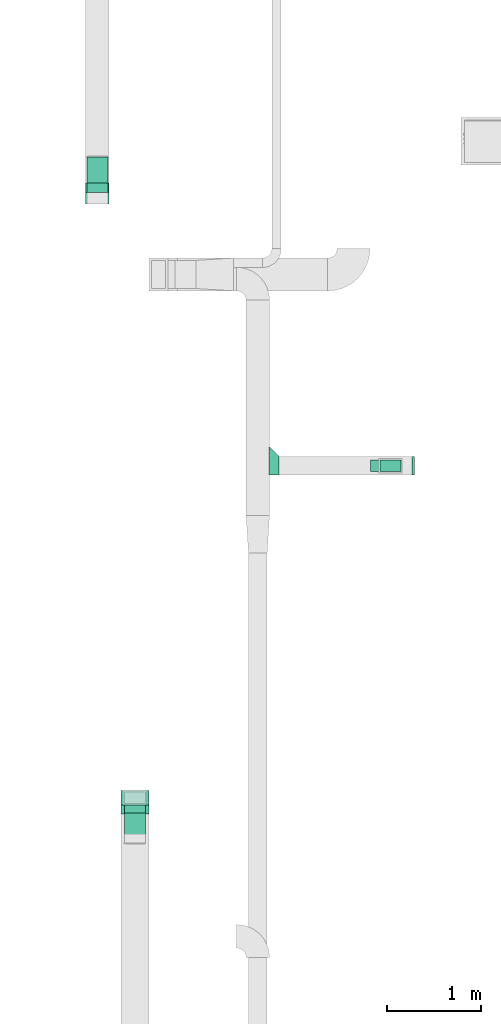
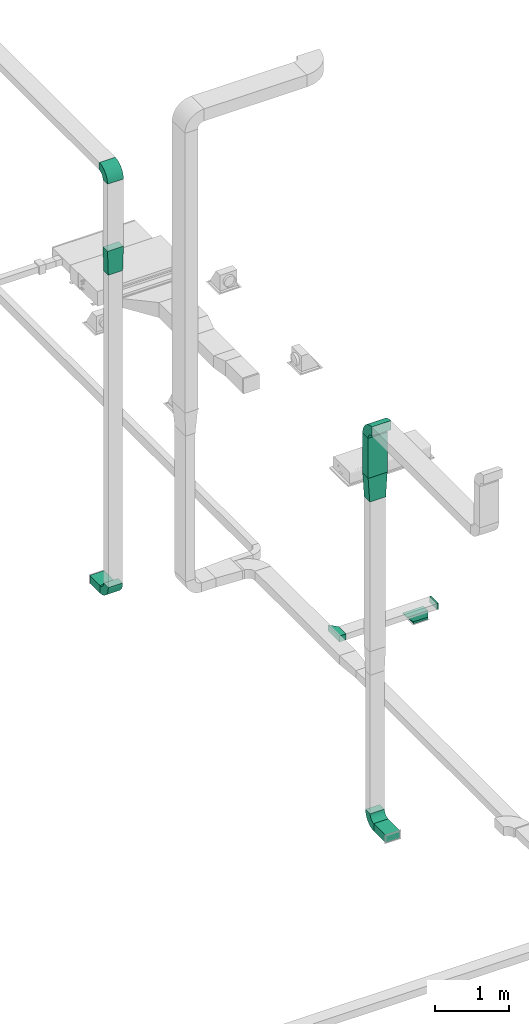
# One storey, part 6 of 22: 9 flow fittings, 4 flow segments.
"""IFC2X3 building model written with IfcOpenShell, lengths in millimetres."""

from ifc_helpers import new_model, entity, si_unit, converted_unit, derived_unit, direction, frame, frame_2d, origin, origin_2d_with_axis, place, context, subcontext, project, spatial, polyline, circle_curve, parameter, trimmed, segment, composite_curve, rectangle, outline, extrude, source, transform, mapped, material, type_object, type_shapes, element, save


model = new_model("IFC2X3")

# Units and contexts
model_context = context("Model", 3, precision=0.01, world=origin(), true_north=direction((6.123233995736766e-17, 1.0)))
body_context = subcontext(model_context, "Body", "Model", "MODEL_VIEW")
ifc_project = project(units=[si_unit("LENGTHUNIT", "METRE", prefix="MILLI"), converted_unit("PLANEANGLEUNIT", "DEGREE", entity("IfcPlaneAngleMeasure", 0.017453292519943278), si_unit("PLANEANGLEUNIT", "RADIAN"), dimensions=[0, 0, 0, 0, 0, 0, 0]), si_unit("AREAUNIT", "SQUARE_METRE"), derived_unit("THERMALTRANSMITTANCEUNIT", [(si_unit("MASSUNIT", "GRAM", prefix="KILO"), 1), (si_unit("THERMODYNAMICTEMPERATUREUNIT", "KELVIN"), -1), (si_unit("TIMEUNIT", "SECOND"), -3)])], contexts=[model_context])

# Site, building, storey
site_placement = place(None, origin())
site = spatial("IfcSite", under=ifc_project, at=site_placement, Name="Default", CompositionType="ELEMENT")
building_placement = place(site_placement, origin())
building = spatial("IfcBuilding", under=site, at=building_placement, Name="Praça Pedro II, 1301 - Centro (Sul), Teresina - PI, 64001-100", CompositionType="ELEMENT")
storey_placement = place(building_placement, frame((0.0, 0.0, 320.0)))
storey = spatial("IfcBuildingStorey", under=building, at=storey_placement, Name="TÉRREO +0.32m", CompositionType="ELEMENT", Elevation=319.99999999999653)

# Flow segments
duct_segment_type = type_object("IfcDuctSegmentType", Name="Duto retangular:Raios cotovelos / torneiras", PredefinedType="NOTDEFINED")
flow_segment_1_placement = place(storey_placement, origin())
element("IfcFlowSegment", 1, at=flow_segment_1_placement, inside=storey, type_object=duct_segment_type, Name="Duto retangular:Raios cotovelos / torneiras", ObjectType="Duto retangular:Raios cotovelos / torneiras", context=body_context, shape_type="SweptSolid", body=[
    extrude(rectangle(XDim=277.50000000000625, YDim=225.00000000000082, at=frame_2d((4.334310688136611e-12, 2.1600499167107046e-12), x_axis=(1.0, 0.0))), frame((33786.88553093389, -57872.09224349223, 1778.5000001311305), z_axis=(0.0, 0.0, 1.0), x_axis=(0.0, -1.0, 0.0)), (0.0, 0.0, 1.0), 124.99999999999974),
])
flow_segment_2_placement = place(storey_placement, origin())
element("IfcFlowSegment", 2, at=flow_segment_2_placement, inside=storey, type_object=duct_segment_type, Name="Duto retangular:Raios cotovelos / torneiras", ObjectType="Duto retangular:Raios cotovelos / torneiras", context=body_context, shape_type="SweptSolid", body=[
    extrude(rectangle(XDim=318.7258346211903, YDim=225.00000000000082, at=frame_2d((0.0, 2.1600499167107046e-12), x_axis=(1.0, 0.0))), frame((34186.88553093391, -64889.97932506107, 1778.5000001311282), z_axis=(0.0, 0.0, 1.0), x_axis=(0.0, 1.0, 0.0)), (0.0, 0.0, 1.0), 124.99999999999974),
])
flow_segment_3_placement = place(storey_placement, origin())
element("IfcFlowSegment", 3, at=flow_segment_3_placement, inside=storey, type_object=duct_segment_type, Name="Duto retangular:Raios cotovelos / torneiras", ObjectType="Duto retangular:Raios cotovelos / torneiras", context=body_context, shape_type="SweptSolid", body=[
    extrude(rectangle(XDim=150.00000000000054, YDim=300.0000000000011, at=origin_2d_with_axis()), frame((34186.88553093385, -64568.1164077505, 7566.425281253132), z_axis=(0.0, 0.0, 1.0), x_axis=(0.0, 1.0, 0.0)), (0.0, 0.0, 1.0), 662.5180156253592),
])
flow_segment_4_placement = place(storey_placement, origin())
element("IfcFlowSegment", 4, at=flow_segment_4_placement, inside=storey, type_object=duct_segment_type, Name="Duto retangular:Raios cotovelos / torneiras", ObjectType="Duto retangular:Raios cotovelos / torneiras", context=body_context, shape_type="SweptSolid", body=[
    extrude(rectangle(XDim=125.00000000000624, YDim=225.00000000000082, at=origin_2d_with_axis()), frame((36911.48958320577, -61024.97495062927, 2040.0), z_axis=(0.0, 0.0, 1.0), x_axis=(0.0, 1.0, 0.0)), (0.0, 0.0, 1.0), 35.00000000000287),
])

# Flow fittings
ifc_material = material(Name="<Unnamed>")
duct_fitting_type_1 = type_object("IfcDuctFittingType", Name="BTS vanes:1 Splitter Vanes", PredefinedType="NOTDEFINED", material=ifc_material)
shared_shape_1 = source(origin(), body_context, "Body", "SweptSolid", [
    extrude(outline(composite_curve([segment(polyline([(-143.75, -81.24999999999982), (-18.749999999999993, -81.24999999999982)]), True, "CONTINUOUS"), segment(trimmed(circle_curve(frame_2d((81.25000000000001, -81.24999999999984), x_axis=(0.0, 1.0)), 100.0), [parameter(0.0)], [parameter(90.00000000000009)], True, "PARAMETER"), False, "CONTINUOUS"), segment(polyline([(81.25000000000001, 18.750000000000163), (81.25000000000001, 143.75000000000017)]), True, "CONTINUOUS"), segment(trimmed(circle_curve(frame_2d((81.25000000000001, -81.24999999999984), x_axis=(0.0, 1.0)), 225.00000000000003), [parameter(0.0)], [parameter(90.00000000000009)], True, "PARAMETER"), True, "CONTINUOUS")], self_intersect=False)), frame((-81.2499999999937, 81.24999999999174, -112.50000000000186), z_axis=(0.0, 0.0, 1.0), x_axis=(-1.0, 0.0, 0.0)), (0.0, 0.0, 1.0), 225.00000000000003),
    extrude(outline(composite_curve([segment(polyline([(-77.63157894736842, -59.21052631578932), (-40.78947368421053, -59.21052631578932)]), True, "CONTINUOUS"), segment(trimmed(circle_curve(frame_2d((59.210526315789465, -59.21052631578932), x_axis=(0.0, 1.0)), 99.99999999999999), [parameter(0.0)], [parameter(90.00000000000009)], True, "PARAMETER"), False, "CONTINUOUS"), segment(polyline([(59.210526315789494, 40.78947368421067), (59.210526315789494, 77.63157894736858)]), True, "CONTINUOUS"), segment(trimmed(circle_curve(frame_2d((59.210526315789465, -59.21052631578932), x_axis=(0.0, 1.0)), 136.8421052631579), [parameter(0.0)], [parameter(90.00000000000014)], True, "PARAMETER"), True, "CONTINUOUS")], self_intersect=False)), frame((-103.28947368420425, 103.28947368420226, -112.50000000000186), z_axis=(0.0, 0.0, 1.0), x_axis=(-1.0, 0.0, 0.0)), (0.0, 0.0, 1.0), 225.00000000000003),
])
type_shapes(duct_fitting_type_1, [shared_shape_1])
for number, where, z_axis, x_axis, name in (
    (5, (34186.88553093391, -64568.11640775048, 1841.0000001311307), (1.0, 0.0, 0.0), (0.0, 1.0, 0.0), "BTS vanes:1 Splitter Vanes"),
    (6, (33786.885530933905, -58173.342243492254, 1841.0000001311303), (-1.0, 0.0, 0.0), (0.0, -1.0, 0.0), "BTS vanes:1 Splitter Vanes"),
):
    element("IfcFlowFitting", number, at=place(storey_placement, frame(where, z_axis=z_axis, x_axis=x_axis)), inside=storey, type_object=duct_fitting_type_1, material=ifc_material, Name=name, ObjectType="BTS vanes:1 Splitter Vanes", context=body_context, shape_type="MappedRepresentation", body=[
        mapped(shared_shape_1, transform((0.0, 0.0, 0.0), scale=1.0)),
    ])
duct_fitting_type_2 = type_object("IfcDuctFittingType", Name="M_Rectangular Transition - L:400 mm (L)", PredefinedType="NOTDEFINED", material=ifc_material)
shared_shape_2 = source(origin(), body_context, "Body", "SweptSolid", [
    extrude(outline(polyline([(-191.81322992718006, -137.23222954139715), (208.96725861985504, -137.2322295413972), (190.25377277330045, 162.1835440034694), (-207.4078014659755, 112.280915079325), (-191.81322992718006, -137.23222954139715)])), frame((200.0, 0.0, -75.0), z_axis=(0.0, 0.0, 1.0), x_axis=(0.9980525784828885, -0.06237828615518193, 0.0)), (0.0, 0.0, 1.0), 150.0),
])
type_shapes(duct_fitting_type_2, [shared_shape_2])
flow_fitting_1_placement = place(storey_placement, frame((34186.88553093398, -64568.116407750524, 7166.425281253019), z_axis=(0.0, 1.0, 0.0), x_axis=(0.0, 0.0, 1.0)))
element("IfcFlowFitting", 7, at=flow_fitting_1_placement, inside=storey, type_object=duct_fitting_type_2, material=ifc_material, Name="M_Rectangular Transition - L:400 mm (L)", ObjectType="M_Rectangular Transition - L:400 mm (L)", context=body_context, shape_type="MappedRepresentation", body=[
    mapped(shared_shape_2, transform((0.0, 0.0, 0.0), scale=1.0)),
])
duct_fitting_type_3 = type_object("IfcDuctFittingType", Name="M_Tampa retangular:Padrão", PredefinedType="NOTDEFINED", material=ifc_material)
shared_shape_3 = source(origin(), body_context, "Body", "SweptSolid", [
    extrude(rectangle(XDim=24.999999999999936, YDim=200.00000000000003, at=frame_2d((-8.881784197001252e-16, 0.0), x_axis=(1.0, 0.0))), frame((12.500000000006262, 0.0, -50.0)), (0.0, 0.0, 1.0), 100.0),
])
type_shapes(duct_fitting_type_3, [shared_shape_3])
flow_fitting_2_placement = place(storey_placement, frame((37142.88897367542, -61024.974950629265, 2225.0)))
element("IfcFlowFitting", 8, at=flow_fitting_2_placement, inside=storey, type_object=duct_fitting_type_3, material=ifc_material, Name="M_Tampa retangular:Padrão", ObjectType="M_Tampa retangular:Padrão", context=body_context, shape_type="MappedRepresentation", body=[
    mapped(shared_shape_3, transform((0.0, 0.0, 0.0), scale=1.0)),
])
duct_fitting_type_4 = type_object("IfcDuctFittingType", Name="M_Rectangular Transition - L:400 mm (L)", PredefinedType="NOTDEFINED", material=ifc_material)
shared_shape_4 = source(origin(), body_context, "Body", "SweptSolid", [
    extrude(outline(polyline([(-196.38850557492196, -118.69205903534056), (203.80675926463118, -118.69205903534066), (195.99807117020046, 131.18595998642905), (-203.41632485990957, 106.19815808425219), (-196.38850557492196, -118.69205903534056)])), frame((200.0, 0.0, -62.50000000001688), z_axis=(0.0, 0.0, 1.0), x_axis=(0.9995120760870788, -0.031234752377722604, 0.0)), (0.0, 0.0, 1.0), 125.00000000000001),
])
type_shapes(duct_fitting_type_4, [shared_shape_4])
flow_fitting_3_placement = place(storey_placement, frame((33786.88553093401, -58173.342243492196, 7165.7586575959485), z_axis=(0.0, 1.0, 0.0), x_axis=(0.0, 0.0, 1.0)))
element("IfcFlowFitting", 9, at=flow_fitting_3_placement, inside=storey, type_object=duct_fitting_type_4, material=ifc_material, Name="M_Rectangular Transition - L:400 mm (L)", ObjectType="M_Rectangular Transition - L:400 mm (L)", context=body_context, shape_type="MappedRepresentation", body=[
    mapped(shared_shape_4, transform((0.0, 0.0, 0.0), scale=1.0)),
])
duct_fitting_type_5 = type_object("IfcDuctFittingType", Name="BTS vanes:1 Splitter Vanes", PredefinedType="NOTDEFINED", material=ifc_material)
shared_shape_5 = source(origin(), body_context, "Body", "SweptSolid", [
    extrude(outline(composite_curve([segment(polyline([(-162.5, -87.49999999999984), (-12.499999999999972, -87.49999999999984)]), True, "CONTINUOUS"), segment(trimmed(circle_curve(frame_2d((87.50000000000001, -87.49999999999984), x_axis=(0.0, 1.0)), 99.99999999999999), [parameter(0.0)], [parameter(90.00000000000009)], True, "PARAMETER"), False, "CONTINUOUS"), segment(polyline([(87.50000000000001, 12.500000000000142), (87.50000000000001, 162.50000000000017)]), True, "CONTINUOUS"), segment(trimmed(circle_curve(frame_2d((87.50000000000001, -87.49999999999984), x_axis=(0.0, 1.0)), 250.00000000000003), [parameter(0.0)], [parameter(90.00000000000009)], True, "PARAMETER"), True, "CONTINUOUS")], self_intersect=False)), frame((-87.4999999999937, 87.49999999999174, -150.0), z_axis=(0.0, 0.0, 1.0), x_axis=(-1.0, 0.0, 0.0)), (0.0, 0.0, 1.0), 300.0),
    extrude(outline(composite_curve([segment(polyline([(-77.63157894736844, -59.21052631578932), (-40.789473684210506, -59.21052631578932)]), True, "CONTINUOUS"), segment(trimmed(circle_curve(frame_2d((59.210526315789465, -59.21052631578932), x_axis=(0.0, 1.0)), 99.99999999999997), [parameter(0.0)], [parameter(90.00000000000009)], True, "PARAMETER"), False, "CONTINUOUS"), segment(polyline([(59.210526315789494, 40.78947368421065), (59.210526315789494, 77.63157894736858)]), True, "CONTINUOUS"), segment(trimmed(circle_curve(frame_2d((59.210526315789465, -59.21052631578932), x_axis=(0.0, 1.0)), 136.8421052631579), [parameter(0.0)], [parameter(90.00000000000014)], True, "PARAMETER"), True, "CONTINUOUS")], self_intersect=False)), frame((-115.78947368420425, 115.78947368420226, -150.0), z_axis=(0.0, 0.0, 1.0), x_axis=(-1.0, 0.0, 0.0)), (0.0, 0.0, 1.0), 300.0),
])
type_shapes(duct_fitting_type_5, [shared_shape_5])
flow_fitting_4_placement = place(storey_placement, frame((34186.885530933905, -64568.11640775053, 8403.943296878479), z_axis=(1.0, 0.0, 0.0), x_axis=(0.0, 0.0, 1.0)))
element("IfcFlowFitting", 10, at=flow_fitting_4_placement, inside=storey, type_object=duct_fitting_type_5, material=ifc_material, Name="BTS vanes:1 Splitter Vanes", ObjectType="BTS vanes:1 Splitter Vanes", context=body_context, shape_type="MappedRepresentation", body=[
    mapped(shared_shape_5, transform((0.0, 0.0, 0.0), scale=1.0)),
])
duct_fitting_type_6 = type_object("IfcDuctFittingType", Name="M_Rectangular Tap - Beveled:Standard", PredefinedType="NOTDEFINED", material=ifc_material)
shared_shape_6 = source(origin(), body_context, "Body", "SweptSolid", [
    extrude(outline(polyline([(-62.43839999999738, -160.0), (43.65760000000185, -160.0), (43.6576000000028, 140.0), (37.5616000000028, 140.0), (-62.43839999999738, 40.0), (-62.43839999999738, -160.0)])), frame((37.56160000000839, -60.0, -50.0), z_axis=(0.0, 0.0, 1.0), x_axis=(-1.0, 0.0, 0.0)), (0.0, 0.0, 1.0), 99.99999999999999),
])
type_shapes(duct_fitting_type_6, [shared_shape_6])
flow_fitting_5_placement = place(storey_placement, frame((35622.88897367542, -61024.974950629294, 2225.0), z_axis=(0.0, 0.0, -1.0), x_axis=(1.0, 0.0, 0.0)))
element("IfcFlowFitting", 11, at=flow_fitting_5_placement, inside=storey, type_object=duct_fitting_type_6, material=ifc_material, Name="M_Rectangular Tap - Beveled:Standard", ObjectType="M_Rectangular Tap - Beveled:Standard", context=body_context, shape_type="MappedRepresentation", body=[
    mapped(shared_shape_6, transform((0.0, 0.0, 0.0), scale=1.0)),
])
duct_fitting_type_7 = type_object("IfcDuctFittingType", Name="BTS vanes:1 Splitter Vanes", PredefinedType="NOTDEFINED", material=ifc_material)
shared_shape_7 = source(origin(), body_context, "Body", "SweptSolid", [
    extrude(outline(composite_curve([segment(polyline([(-143.75, -81.24999999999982), (-18.749999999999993, -81.24999999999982)]), True, "CONTINUOUS"), segment(trimmed(circle_curve(frame_2d((81.25000000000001, -81.24999999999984), x_axis=(0.0, 1.0)), 100.0), [parameter(0.0)], [parameter(90.00000000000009)], True, "PARAMETER"), False, "CONTINUOUS"), segment(polyline([(81.25000000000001, 18.750000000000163), (81.25000000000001, 143.75000000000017)]), True, "CONTINUOUS"), segment(trimmed(circle_curve(frame_2d((81.25000000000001, -81.24999999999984), x_axis=(0.0, 1.0)), 225.00000000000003), [parameter(0.0)], [parameter(90.00000000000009)], True, "PARAMETER"), True, "CONTINUOUS")], self_intersect=False)), frame((-81.2499999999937, 81.24999999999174, -125.0), z_axis=(0.0, 0.0, 1.0), x_axis=(-1.0, 0.0, 0.0)), (0.0, 0.0, 1.0), 250.00000000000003),
    extrude(outline(composite_curve([segment(polyline([(-77.63157894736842, -59.21052631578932), (-40.78947368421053, -59.21052631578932)]), True, "CONTINUOUS"), segment(trimmed(circle_curve(frame_2d((59.210526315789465, -59.21052631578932), x_axis=(0.0, 1.0)), 99.99999999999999), [parameter(0.0)], [parameter(90.00000000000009)], True, "PARAMETER"), False, "CONTINUOUS"), segment(polyline([(59.210526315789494, 40.78947368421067), (59.210526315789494, 77.63157894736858)]), True, "CONTINUOUS"), segment(trimmed(circle_curve(frame_2d((59.210526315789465, -59.21052631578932), x_axis=(0.0, 1.0)), 136.8421052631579), [parameter(0.0)], [parameter(90.00000000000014)], True, "PARAMETER"), True, "CONTINUOUS")], self_intersect=False)), frame((-103.28947368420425, 103.28947368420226, -125.0), z_axis=(0.0, 0.0, 1.0), x_axis=(-1.0, 0.0, 0.0)), (0.0, 0.0, 1.0), 250.00000000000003),
])
type_shapes(duct_fitting_type_7, [shared_shape_7])
flow_fitting_6_placement = place(storey_placement, frame((33786.88553093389, -58173.34224349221, 8836.871877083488), z_axis=(-1.0, 0.0, 0.0), x_axis=(0.0, 0.0, 1.0)))
element("IfcFlowFitting", 12, at=flow_fitting_6_placement, inside=storey, type_object=duct_fitting_type_7, material=ifc_material, Name="BTS vanes:1 Splitter Vanes", ObjectType="BTS vanes:1 Splitter Vanes", context=body_context, shape_type="MappedRepresentation", body=[
    mapped(shared_shape_7, transform((0.0, 0.0, 0.0), scale=1.0)),
])
duct_fitting_type_8 = type_object("IfcDuctFittingType", Name="M_Rectangular Tap - Beveled:Standard", PredefinedType="NOTDEFINED", material=ifc_material)
shared_shape_8 = source(origin(), body_context, "Body", "SweptSolid", [
    extrude(outline(polyline([(-175.0, -62.43840000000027), (50.0, -62.43840000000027), (150.0, 37.561599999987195), (150.0, 43.65760000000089), (-175.0, 43.65759999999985), (-175.0, -62.43840000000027)])), frame((37.56160000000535, 62.50000000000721, -62.49999999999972), z_axis=(0.0, 0.0, 1.0), x_axis=(0.0, 1.0, 0.0)), (0.0, 0.0, 1.0), 124.99999999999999),
])
type_shapes(duct_fitting_type_8, [shared_shape_8])
flow_fitting_7_placement = place(storey_placement, frame((36911.48958320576, -61024.97495062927, 2175.0), z_axis=(0.0, 1.0, 0.0), x_axis=(0.0, 0.0, -1.0)))
element("IfcFlowFitting", 13, at=flow_fitting_7_placement, inside=storey, type_object=duct_fitting_type_8, material=ifc_material, Name="M_Rectangular Tap - Beveled:Standard", ObjectType="M_Rectangular Tap - Beveled:Standard", context=body_context, shape_type="MappedRepresentation", body=[
    mapped(shared_shape_8, transform((0.0, 0.0, 0.0), scale=1.0)),
])

save(model, "model.ifc")
